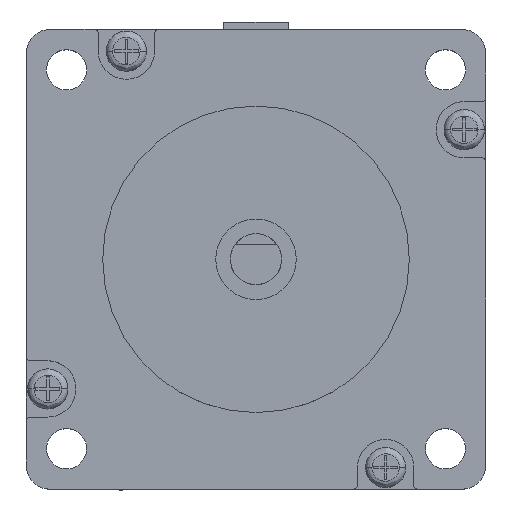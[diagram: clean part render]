
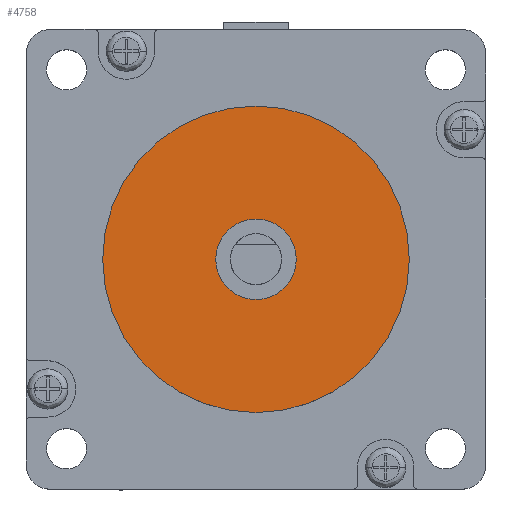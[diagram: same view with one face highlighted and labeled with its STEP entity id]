
A CAD part, top view. The second image highlights one B-rep face of the part: STEP entity #4758.
In plain terms, the highlighted planar face has unit normal (0, 0, 1).
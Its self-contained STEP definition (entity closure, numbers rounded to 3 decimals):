
#214 = DIRECTION ( 'NONE',  ( 0., 0., -1. ) ) ;
#688 = VERTEX_POINT ( 'NONE', #4697 ) ;
#926 = CARTESIAN_POINT ( 'NONE',  ( 0., 0., 11.6 ) ) ;
#1825 = VERTEX_POINT ( 'NONE', #7638 ) ;
#2142 = AXIS2_PLACEMENT_3D ( 'NONE', #7318, #6677, #7350 ) ;
#2459 = AXIS2_PLACEMENT_3D ( 'NONE', #7763, #8490, #3790 ) ;
#2487 = FACE_OUTER_BOUND ( 'NONE', #4847, .T. ) ;
#2844 = PLANE ( 'NONE',  #3389 ) ;
#3182 = VERTEX_POINT ( 'NONE', #3746 ) ;
#3189 = ORIENTED_EDGE ( 'NONE', *, *, #4852, .T. ) ;
#3389 = AXIS2_PLACEMENT_3D ( 'NONE', #926, #7529, #6226 ) ;
#3474 = AXIS2_PLACEMENT_3D ( 'NONE', #4071, #214, #7519 ) ;
#3707 = CIRCLE ( 'NONE', #2459, 5. ) ;
#3746 = CARTESIAN_POINT ( 'NONE',  ( 19.05, 0., 11.6 ) ) ;
#3790 = DIRECTION ( 'NONE',  ( 1., 0., 0. ) ) ;
#4038 = FACE_BOUND ( 'NONE', #7859, .T. ) ;
#4071 = CARTESIAN_POINT ( 'NONE',  ( 0., 0., 11.6 ) ) ;
#4593 = AXIS2_PLACEMENT_3D ( 'NONE', #6891, #6247, #4868 ) ;
#4623 = CARTESIAN_POINT ( 'NONE',  ( -19.05, 0., 11.6 ) ) ;
#4697 = CARTESIAN_POINT ( 'NONE',  ( -5., 0., 11.6 ) ) ;
#4758 = ADVANCED_FACE ( 'NONE', ( #2487, #4038 ), #2844, .T. ) ;
#4822 = ORIENTED_EDGE ( 'NONE', *, *, #6827, .F. ) ;
#4847 = EDGE_LOOP ( 'NONE', ( #4822, #7831 ) ) ;
#4852 = EDGE_CURVE ( 'NONE', #688, #1825, #3707, .T. ) ;
#4868 = DIRECTION ( 'NONE',  ( 1., 0., 0. ) ) ;
#5850 = ORIENTED_EDGE ( 'NONE', *, *, #8101, .T. ) ;
#6226 = DIRECTION ( 'NONE',  ( 1., 0., 0. ) ) ;
#6247 = DIRECTION ( 'NONE',  ( 0., 0., -1. ) ) ;
#6677 = DIRECTION ( 'NONE',  ( 0., 0., -1. ) ) ;
#6758 = CIRCLE ( 'NONE', #4593, 5. ) ;
#6827 = EDGE_CURVE ( 'NONE', #7279, #3182, #6992, .T. ) ;
#6891 = CARTESIAN_POINT ( 'NONE',  ( 0., 0., 11.6 ) ) ;
#6992 = CIRCLE ( 'NONE', #2142, 19.05 ) ;
#7279 = VERTEX_POINT ( 'NONE', #4623 ) ;
#7318 = CARTESIAN_POINT ( 'NONE',  ( 0., 0., 11.6 ) ) ;
#7350 = DIRECTION ( 'NONE',  ( -1., 0., 0. ) ) ;
#7519 = DIRECTION ( 'NONE',  ( -1., 0., 0. ) ) ;
#7529 = DIRECTION ( 'NONE',  ( 0., 0., 1. ) ) ;
#7638 = CARTESIAN_POINT ( 'NONE',  ( 5., 0., 11.6 ) ) ;
#7763 = CARTESIAN_POINT ( 'NONE',  ( 0., 0., 11.6 ) ) ;
#7831 = ORIENTED_EDGE ( 'NONE', *, *, #8618, .F. ) ;
#7859 = EDGE_LOOP ( 'NONE', ( #5850, #3189 ) ) ;
#8101 = EDGE_CURVE ( 'NONE', #1825, #688, #6758, .T. ) ;
#8490 = DIRECTION ( 'NONE',  ( 0., 0., -1. ) ) ;
#8518 = CIRCLE ( 'NONE', #3474, 19.05 ) ;
#8618 = EDGE_CURVE ( 'NONE', #3182, #7279, #8518, .T. ) ;
